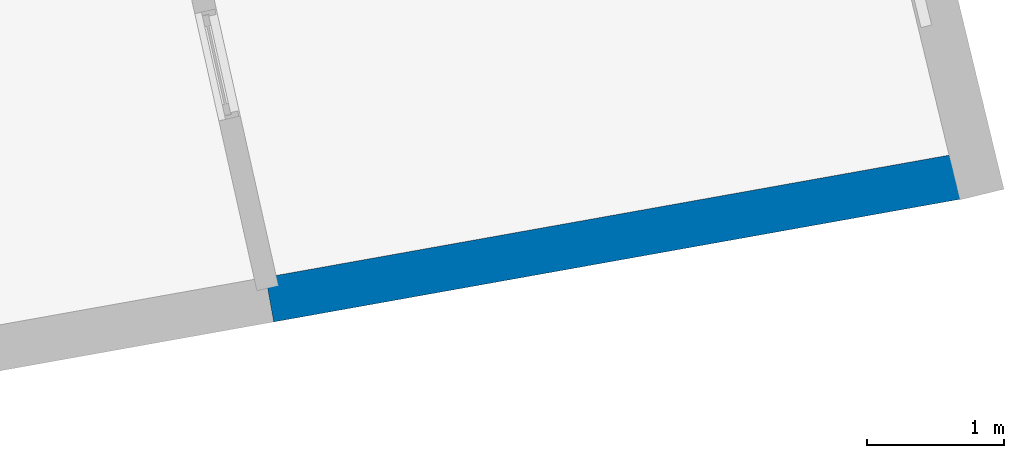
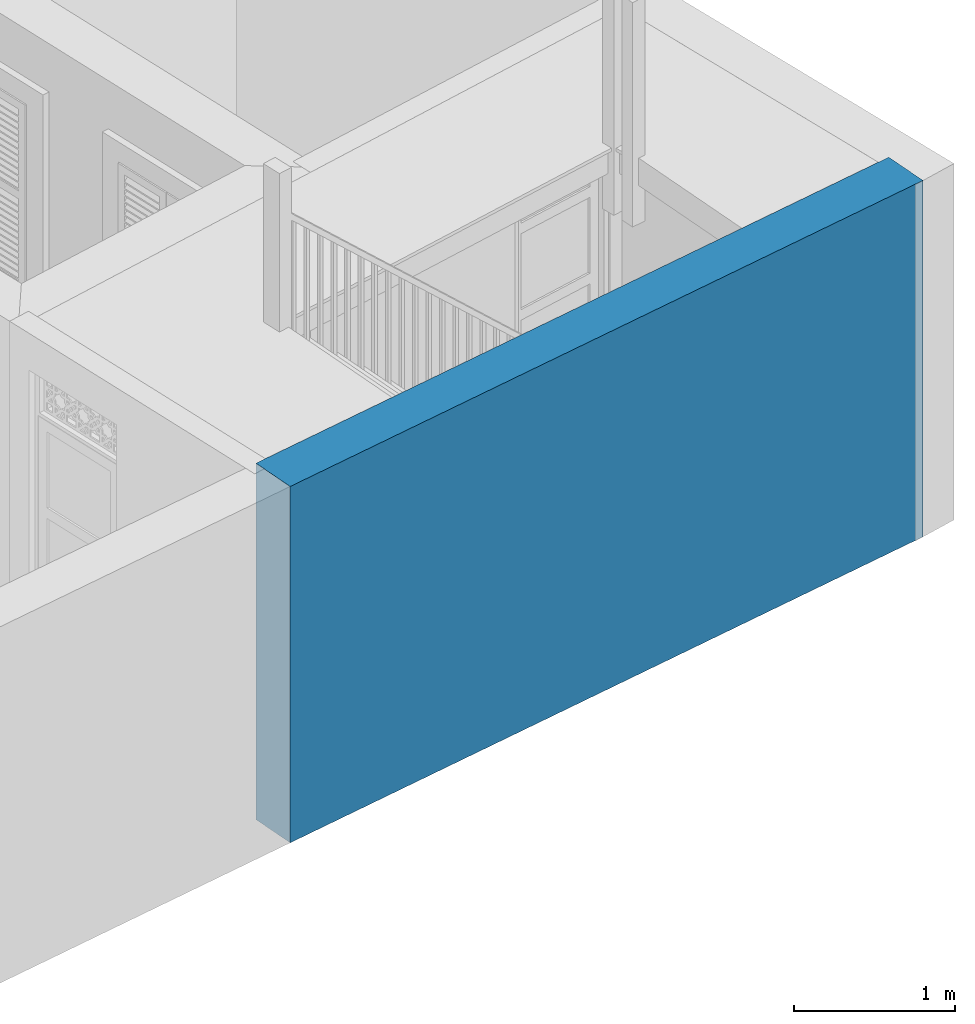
# One storey, part 3 of 13: 1 wall.
"""IFC4 building model written with IfcOpenShell, lengths in metres."""

from ifc_helpers import new_model, si_unit, frame, origin_with_axes, place, context, subcontext, project, spatial, polyline, outline, extrude, material, layer, layer_set, layer_usage, type_object, element, save


model = new_model("IFC4")

# Units and contexts
model_context = context("Model", 3, world=origin_with_axes())
body_context = subcontext(model_context, "Body", "Model", "MODEL_VIEW")
ifc_project = project(units=[si_unit("PLANEANGLEUNIT", "RADIAN"), si_unit("MASSUNIT", "GRAM", prefix="KILO"), si_unit("FORCEUNIT", "NEWTON", prefix="KILO"), si_unit("LENGTHUNIT", "METRE"), si_unit("AREAUNIT", "SQUARE_METRE"), si_unit("VOLUMEUNIT", "CUBIC_METRE")], contexts=[model_context, model_context])

# Site, building, storey
site_placement = place(None, origin_with_axes())
site = spatial("IfcSite", under=ifc_project, at=site_placement, Name="Site plot-10", CompositionType="ELEMENT")
building_placement = place(None, origin_with_axes())
building = spatial("IfcBuilding", under=site, at=building_placement, Name="Building plot-10", CompositionType="ELEMENT")
storey_placement = place(None, origin_with_axes())
storey = spatial("IfcBuildingStorey", under=building, at=storey_placement, Name="plot-10 0", CompositionType="ELEMENT", Elevation=0.0)

# Wall
ifc_material = material(Name="Masonry")
ifc_layer = layer(ifc_material, 0.33, ventilated=False)
ifc_layer_set = layer_set([ifc_layer], Name="party_0.08_0.25")
ifc_layer_usage = layer_usage(ifc_layer_set, "AXIS2", "POSITIVE", -0.25)
wall_type = type_object("IfcWallType", Name="party_0.08_0.25", PredefinedType="SOLIDWALL", material=ifc_layer_set)
wall_placement = place(storey_placement, frame((-19.6342477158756, 8.65796789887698, 0.0), z_axis=(0.0, 0.0, 1.0), x_axis=(0.984393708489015, 0.175980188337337, 0.0)))
element("IfcWall", 1, at=wall_placement, inside=storey, type_object=wall_type, material=ifc_layer_usage, Name="party", context=body_context, shape_type="SweptSolid", body=[
    extrude(outline(polyline([(4.3122422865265e-16, 0.0800000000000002), (-7.61848032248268e-16, -0.25), (5.13844115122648, -0.25), (5.13844115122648, 0.0800000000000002), (4.3122422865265e-16, 0.0800000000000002)])), origin_with_axes(), (0.0, 0.0, 1.0), 2.7),
])

save(model, "model.ifc")
